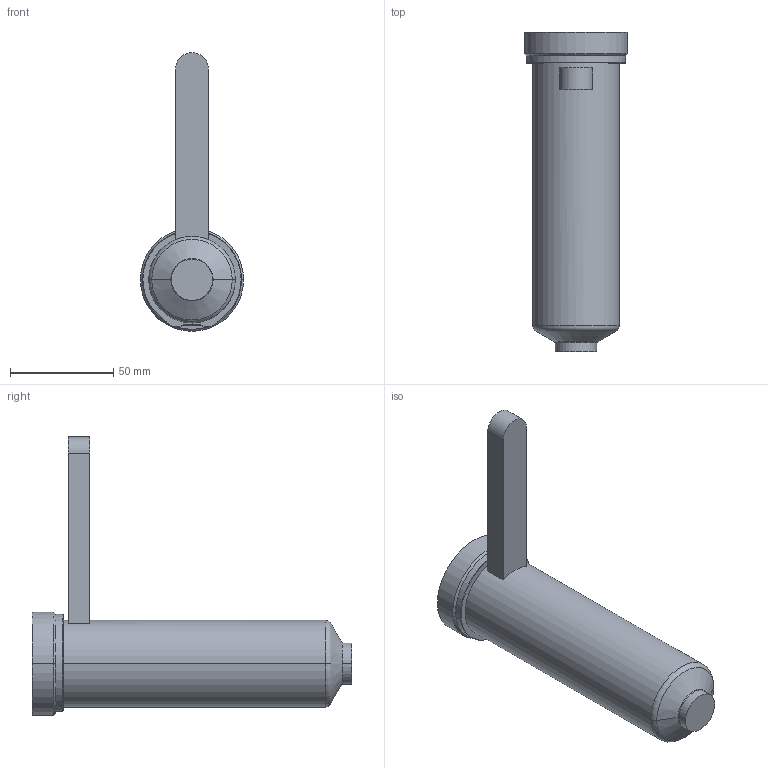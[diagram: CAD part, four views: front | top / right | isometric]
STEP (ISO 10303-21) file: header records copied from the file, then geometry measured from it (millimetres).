
FILE_DESCRIPTION((''),'2;1');
FILE_NAME('EO16_VG-FB_STD_140_COT','2024-02-19T13:43:23',('sundharh'),(''),'CREO PARAMETRIC BY PTC INC, 2023154','CREO PARAMETRIC BY PTC INC, 2023154','');
FILE_SCHEMA(('CONFIG_CONTROL_DESIGN'));
Length unit declared in the file: millimetre
Products named in the file (1): EO16_VG-FB_STD_140_COT
Bounding box: 50 x 155 x 135 mm (x, y, z)
Volume: 228607.5 mm3; surface area: 28223.8 mm2
Topology: 1 solids, 1 shells, 31 faces, 67 edges, 40 vertices
Faces by surface type: cylinder 11, plane 9, torus 7, cone 4
Entity records: 967 total; most frequent: CARTESIAN_POINT 234, DIRECTION 159, ORIENTED_EDGE 134, AXIS2_PLACEMENT_3D 67, EDGE_CURVE 67, VERTEX_POINT 40, CIRCLE 36, EDGE_LOOP 33
